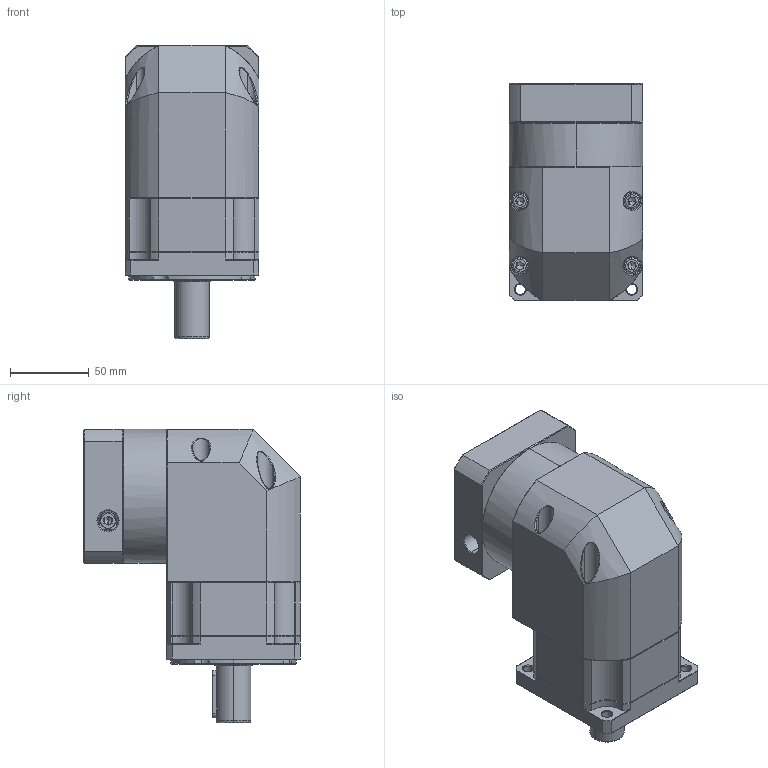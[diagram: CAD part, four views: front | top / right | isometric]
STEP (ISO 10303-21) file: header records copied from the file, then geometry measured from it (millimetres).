
FILE_DESCRIPTION (( 'STEP AP214' ), '1' );
FILE_NAME ('ZBR090-D22-L1-P2-14-73-69.6X69.6-M6.step', '2023-08-19T02:05:11', ( '' ), ( '' ), 'SwSTEP 2.0', 'SolidWorks 2016', '' );
FILE_SCHEMA (( 'AUTOMOTIVE_DESIGN' ));
Length unit declared in the file: millimetre
Products named in the file (1): ZBR090-D22-L1-P2-14-73-69.6X69.6-M6
Bounding box: 85 x 137.6 x 186 mm (x, y, z)
Volume: 1185923 mm3; surface area: 129872.2 mm2
Topology: 5 solids, 5 shells, 2401 faces, 6267 edges, 3958 vertices
Faces by surface type: plane 1157, cylinder 447, bspline 421, cone 350, torus 26
Entity records: 129288 total; most frequent: CARTESIAN_POINT 47591, ORIENTED_EDGE 12458, DIRECTION 9900, EDGE_CURVE 6229, VECTOR 3964, LINE 3964, VERTEX_POINT 3958, AXIS2_PLACEMENT_3D 2968
